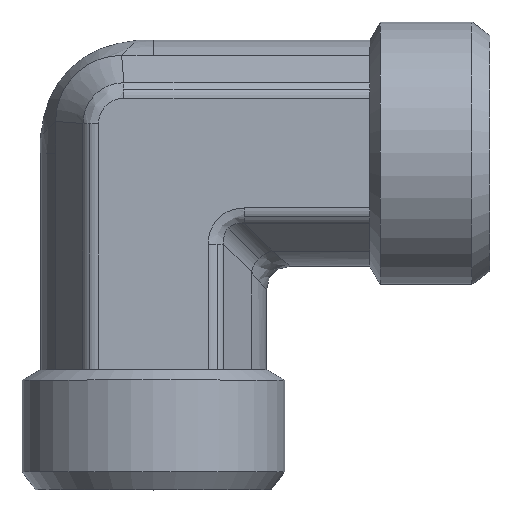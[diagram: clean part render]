
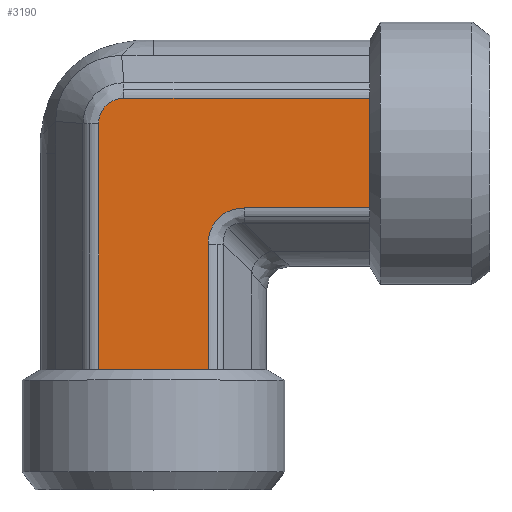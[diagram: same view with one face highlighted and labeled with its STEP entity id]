
A CAD part, top view. The second image highlights one B-rep face of the part: STEP entity #3190.
In plain terms, the highlighted planar face has unit normal (0, 0, 1) as drawn and (0, -1, 0) by its records, which use the part's own axes.
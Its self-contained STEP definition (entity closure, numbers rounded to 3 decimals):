
#361=CARTESIAN_POINT('',(3.092,-9.4,4.561));
#362=VERTEX_POINT('',#361);
#370=CARTESIAN_POINT('',(13.5,-9.4,4.561));
#371=VERTEX_POINT('',#370);
#372=CARTESIAN_POINT('',(3.092,-9.4,4.561));
#373=DIRECTION('',(1.0,0.0,0.0));
#374=VECTOR('',#373,10.408);
#375=LINE('',#372,#374);
#376=EDGE_CURVE('',#362,#371,#375,.T.);
#485=CARTESIAN_POINT('',(-9.061,-9.4,-2.461));
#486=VERTEX_POINT('',#485);
#494=CARTESIAN_POINT('',(-9.061,-9.4,18.0));
#495=VERTEX_POINT('',#494);
#496=CARTESIAN_POINT('',(-9.061,-9.4,-2.461));
#497=DIRECTION('',(0.0,0.0,1.0));
#498=VECTOR('',#497,20.461);
#499=LINE('',#496,#498);
#500=EDGE_CURVE('',#486,#495,#499,.T.);
#776=CARTESIAN_POINT('',(13.5,-9.4,0.));
#777=VERTEX_POINT('',#776);
#1940=CARTESIAN_POINT('',(-4.5,-9.4,18.0));
#1941=VERTEX_POINT('',#1940);
#2174=CARTESIAN_POINT('',(-4.5,-9.4,18.0));
#2175=DIRECTION('',(-1.0,0.0,0.0));
#2176=VECTOR('',#2175,4.561);
#2177=LINE('',#2174,#2176);
#2178=EDGE_CURVE('',#1941,#495,#2177,.T.);
#2251=CARTESIAN_POINT('',(0.061,-9.4,18.0));
#2252=VERTEX_POINT('',#2251);
#2253=CARTESIAN_POINT('',(0.061,-9.4,18.0));
#2254=DIRECTION('',(-1.0,0.0,0.0));
#2255=VECTOR('',#2254,4.561);
#2256=LINE('',#2253,#2255);
#2257=EDGE_CURVE('',#2252,#1941,#2256,.T.);
#2383=CARTESIAN_POINT('',(13.5,-9.4,-4.561));
#2384=VERTEX_POINT('',#2383);
#2385=CARTESIAN_POINT('',(13.5,-9.4,-4.561));
#2386=DIRECTION('',(0.0,0.0,1.0));
#2387=VECTOR('',#2386,4.561);
#2388=LINE('',#2385,#2387);
#2389=EDGE_CURVE('',#2384,#777,#2388,.T.);
#2430=CARTESIAN_POINT('',(13.5,-9.4,0.));
#2431=DIRECTION('',(0.0,0.0,1.0));
#2432=VECTOR('',#2431,4.561);
#2433=LINE('',#2430,#2432);
#2434=EDGE_CURVE('',#777,#371,#2433,.T.);
#2874=CARTESIAN_POINT('',(-6.961,-9.4,-4.561));
#2875=VERTEX_POINT('',#2874);
#2883=CARTESIAN_POINT('',(-9.061,-9.4,-2.461));
#2884=CARTESIAN_POINT('',(-9.061,-9.4,-2.598));
#2885=CARTESIAN_POINT('',(-9.048,-9.4,-2.736));
#2886=CARTESIAN_POINT('',(-8.977,-9.4,-3.088));
#2887=CARTESIAN_POINT('',(-8.901,-9.4,-3.296));
#2888=CARTESIAN_POINT('',(-8.62,-9.4,-3.796));
#2889=CARTESIAN_POINT('',(-8.37,-9.4,-4.058));
#2890=CARTESIAN_POINT('',(-7.737,-9.4,-4.451));
#2891=CARTESIAN_POINT('',(-7.349,-9.4,-4.561));
#2892=CARTESIAN_POINT('',(-6.961,-9.4,-4.561));
#2893=B_SPLINE_CURVE_WITH_KNOTS('',3,(#2883,#2884,#2885,#2886,#2887,#2888,#2889,#2890,#2891,#2892),.UNSPECIFIED.,.F.,.U.,(4,2,2,2,4),(-3.281,-2.871,-2.215,-1.165,0.0),.UNSPECIFIED.);
#2894=EDGE_CURVE('',#2875,#486,#2893,.F.);
#2921=CARTESIAN_POINT('',(13.5,-9.4,-4.561));
#2922=DIRECTION('',(-1.0,0.0,0.0));
#2923=VECTOR('',#2922,20.461);
#2924=LINE('',#2921,#2923);
#2925=EDGE_CURVE('',#2384,#2875,#2924,.T.);
#3057=CARTESIAN_POINT('',(0.061,-9.4,7.592));
#3058=VERTEX_POINT('',#3057);
#3059=CARTESIAN_POINT('',(0.061,-9.4,18.0));
#3060=DIRECTION('',(0.0,0.0,-1.0));
#3061=VECTOR('',#3060,10.408);
#3062=LINE('',#3059,#3061);
#3063=EDGE_CURVE('',#2252,#3058,#3062,.T.);
#3146=CARTESIAN_POINT('',(4.103,-9.4,8.603));
#3147=DIRECTION('',(0.,-1.0,0.));
#3148=DIRECTION('',(-0.707,0.,-0.707));
#3149=AXIS2_PLACEMENT_3D('',#3146,#3147,#3148);
#3150=ELLIPSE('',#3149,4.518,3.5);
#3151=EDGE_CURVE('',#3058,#362,#3150,.T.);
#3173=CARTESIAN_POINT('',(-4.5,-9.4,-3.175));
#3174=DIRECTION('',(0.0,-1.0,0.0));
#3175=DIRECTION('',(0.0,0.0,-1.0));
#3176=AXIS2_PLACEMENT_3D('',#3173,#3174,#3175);
#3177=PLANE('',#3176);
#3178=ORIENTED_EDGE('',*,*,#2925,.F.);
#3179=ORIENTED_EDGE('',*,*,#2389,.T.);
#3180=ORIENTED_EDGE('',*,*,#2434,.T.);
#3181=ORIENTED_EDGE('',*,*,#376,.F.);
#3182=ORIENTED_EDGE('',*,*,#3151,.F.);
#3183=ORIENTED_EDGE('',*,*,#3063,.F.);
#3184=ORIENTED_EDGE('',*,*,#2257,.T.);
#3185=ORIENTED_EDGE('',*,*,#2178,.T.);
#3186=ORIENTED_EDGE('',*,*,#500,.F.);
#3187=ORIENTED_EDGE('',*,*,#2894,.F.);
#3188=EDGE_LOOP('',(#3178,#3179,#3180,#3181,#3182,#3183,#3184,#3185,#3186,#3187));
#3189=FACE_OUTER_BOUND('',#3188,.T.);
#3190=ADVANCED_FACE('',(#3189),#3177,.T.);
